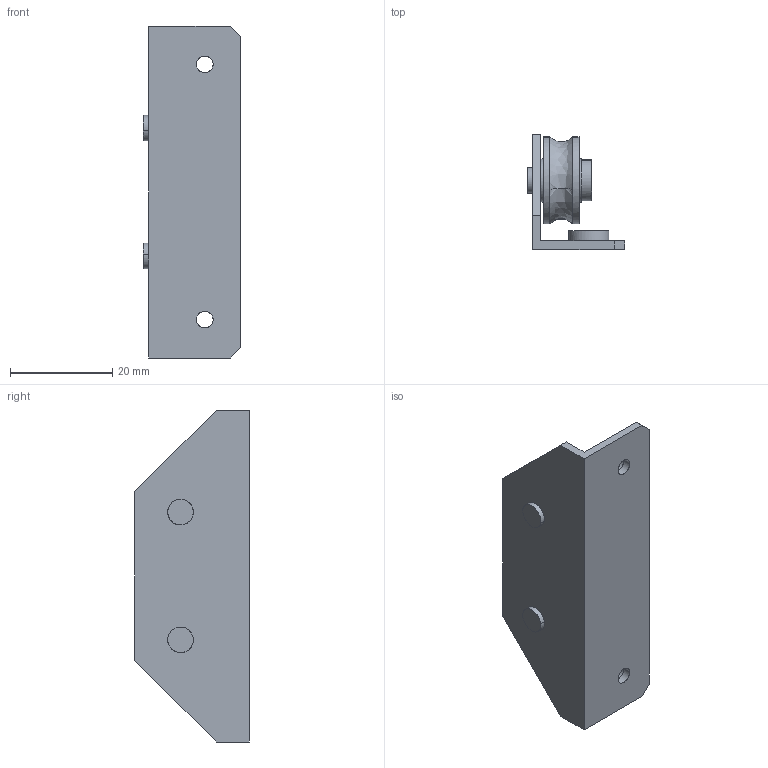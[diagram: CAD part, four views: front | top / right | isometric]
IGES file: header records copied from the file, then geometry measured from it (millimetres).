
Global section: file name: No Iges File Name specified; native system: AutoDesk Inventor R11.0; preprocessor: AutoDesk Inventor Iges Exporter R11.0; author: No Author specified; organization: No Organization specified; date: 20190426.192513; units: millimetre
Bounding box: 19 x 22.5 x 65 mm (x, y, z)
Surface area: 7020.8 mm2 (no closed solid volume)
Topology: 0 solids, 0 shells, 72 faces, 506 edges, 506 vertices
Faces by surface type: bspline 72
